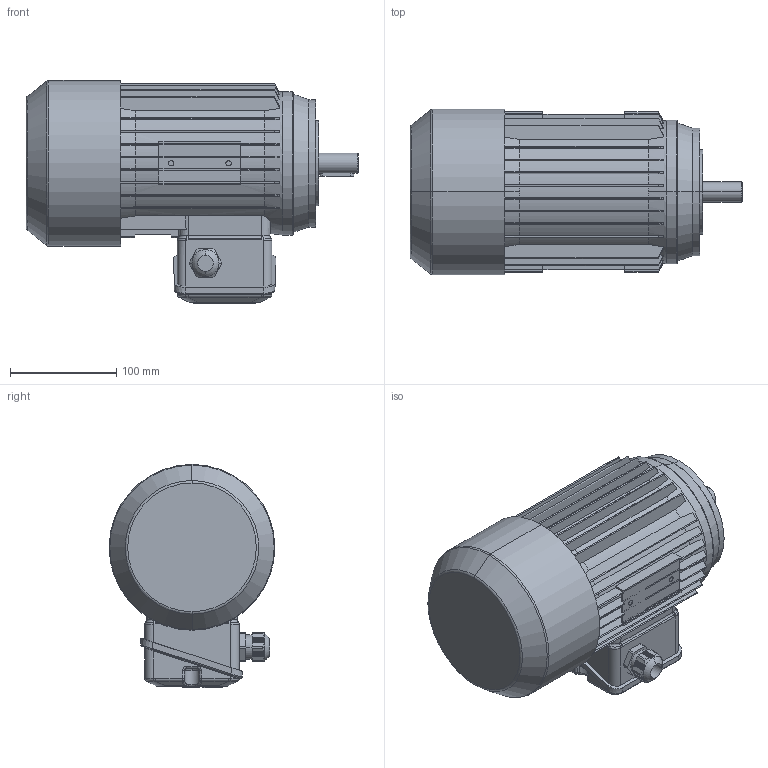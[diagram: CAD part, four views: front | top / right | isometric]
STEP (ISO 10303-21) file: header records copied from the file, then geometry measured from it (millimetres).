
FILE_DESCRIPTION (( 'STEP AP214' ), '1' );
FILE_NAME ('MAP80M4B IM3641-A FT100.STEP', '2020-12-18T11:06:58', ( '' ), ( '' ), 'SwSTEP 2.0', 'SolidWorks 2018', '' );
FILE_SCHEMA (( 'AUTOMOTIVE_DESIGN' ));
Length unit declared in the file: millimetre
Products named in the file (1): MAP80M4B IM3641-A FT100
Bounding box: 312.5 x 156 x 210 mm (x, y, z)
Volume: 4673814.6 mm3; surface area: 287795.3 mm2
Topology: 3 solids, 8 shells, 1017 faces, 2657 edges, 1699 vertices
Faces by surface type: plane 534, cylinder 230, bspline 118, cone 97, torus 36, sphere 2
Entity records: 36970 total; most frequent: CARTESIAN_POINT 13158, ORIENTED_EDGE 5310, DIRECTION 4458, EDGE_CURVE 2655, VERTEX_POINT 1699, AXIS2_PLACEMENT_3D 1489, LINE 1480, VECTOR 1480
